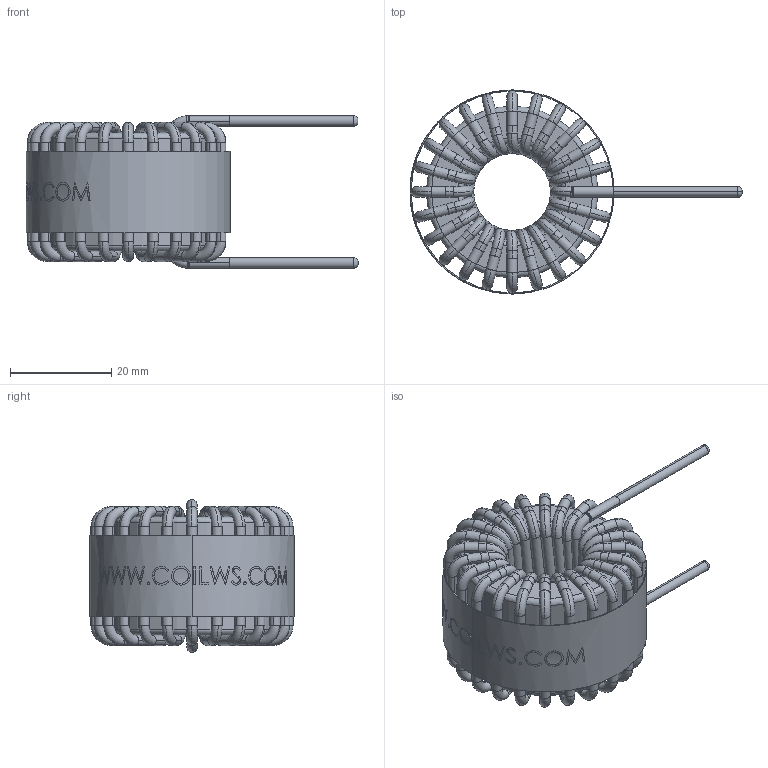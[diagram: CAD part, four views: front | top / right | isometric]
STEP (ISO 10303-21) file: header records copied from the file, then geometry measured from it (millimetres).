
FILE_DESCRIPTION (( 'STEP AP214' ), '1' );
FILE_NAME ('HF3302-750M-25AV.STEP', '2021-05-08T09:14:57', ( '' ), ( '' ), 'SwSTEP 2.0', 'SolidWorks 2015', '' );
FILE_SCHEMA (( 'AUTOMOTIVE_DESIGN' ));
Length unit declared in the file: millimetre
Products named in the file (4): CORE; WINDING; WRAPPER; HF3302-750M-25AV
Assembly tree (3 placements, depth 2):
  HF3302-750M-25AV
    CORE
    WINDING
    WRAPPER
Bounding box: 65.47 x 40.25 x 30.05 mm (x, y, z)
Volume: 19725.2 mm3; surface area: 19652.6 mm2
Topology: 28 solids, 28 shells, 670 faces, 1770 edges, 1172 vertices
Faces by surface type: cylinder 268, torus 208, bspline 103, plane 91
Entity records: 32736 total; most frequent: CARTESIAN_POINT 13866, DIRECTION 3746, ORIENTED_EDGE 3540, EDGE_CURVE 1770, AXIS2_PLACEMENT_3D 1737, VERTEX_POINT 1172, CIRCLE 1164, EDGE_LOOP 690
